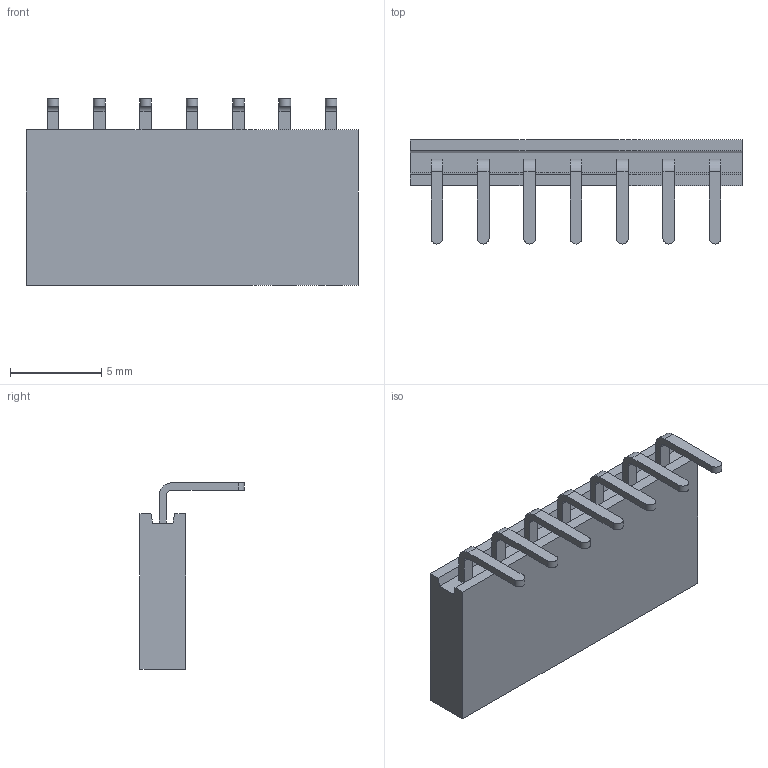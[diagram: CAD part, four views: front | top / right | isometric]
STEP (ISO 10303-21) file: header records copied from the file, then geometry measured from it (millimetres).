
FILE_DESCRIPTION(/* description */ (''),/* implementation_level */ '2;1');
FILE_NAME(/* name */ 'E:\工作文件\排针排母\PM排母\2.54\单排\W-弯针\塑高8.5\PM254-1-7-W-8.5-XX (2.54单排 弯针 排母 塑高8.5-HCTL).stp',/* time_stamp */ '2023-12-29T10:09:31+08:00',/* author */ ('admin'),/* organization */ (''),/* preprocessor_version */ 'ST-DEVELOPER v18.1',/* originating_system */ 'Autodesk Inventor 2021',/* authorisation */ '');
FILE_SCHEMA (('AUTOMOTIVE_DESIGN { 1 0 10303 214 3 1 1 }'));
Length unit declared in the file: millimetre
Products named in the file (1): PM254-1-2-W-8.5-XX (2.54单排 弯针 排母 
塑高8.5-HCTL)
Bounding box: 18.18 x 5.7 x 10.2 mm (x, y, z)
Volume: 381.4 mm3; surface area: 560.2 mm2
Topology: 1 solids, 1 shells, 108 faces, 276 edges, 184 vertices
Faces by surface type: plane 87, cylinder 21
Entity records: 3283 total; most frequent: CARTESIAN_POINT 569, ORIENTED_EDGE 552, DIRECTION 536, EDGE_CURVE 276, LINE 234, VECTOR 234, VERTEX_POINT 184, AXIS2_PLACEMENT_3D 151
